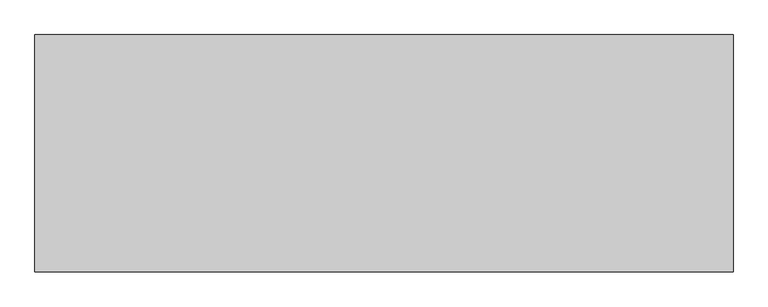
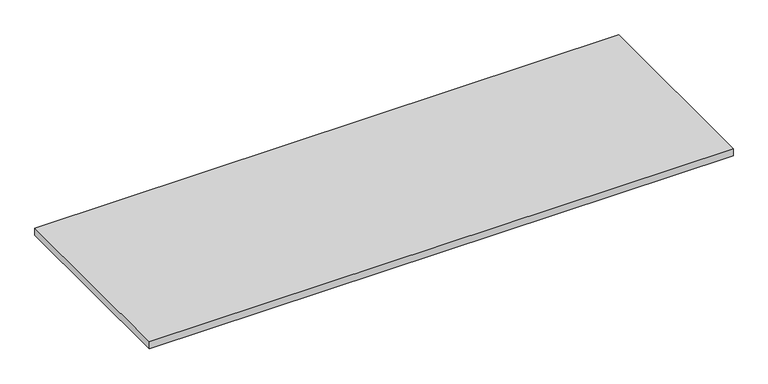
"""IFC4 building model written with IfcOpenShell, lengths in millimetres: furniture geometry, BK Library - Top Plate - HYOT : BK Library - Top Plate - HYOT."""

import ifcopenshell
import ifcopenshell.guid

model = None  # the IFC model being written
_history = None  # IfcOwnerHistory: only IFC2X3 demands one
_inside = {}  # id of a spatial element -> (the spatial element, [elements in it])
_under = {}  # id of a project, library or spatial element -> (it, [spatial elements below it])
_declared = {}  # id of a project -> (the project, [libraries it declares])
_typed = {}  # id of a type object -> (the type object, [elements of that type])
_made_of = {}  # id of a material, layer set ... -> (it, [elements and type objects made of it])


def new_model(schema):
    """Start an empty IFC model of exactly this schema.

    Asked for "IFC4X3", IfcOpenShell would pick the latest addendum, in which some entities
    have other attributes; the version numbers below select the first issue.
    IFC2X3 requires an IfcOwnerHistory on every rooted entity: one is made here for all.
    """
    global model, _history
    if schema == "IFC4X3":
        model = ifcopenshell.file(schema_version=(4, 3, 0, 0))
    else:
        model = ifcopenshell.file(schema=schema)
    _inside.clear()
    _under.clear()
    _declared.clear()
    _typed.clear()
    _made_of.clear()
    _history = None
    if model.schema == "IFC2X3":
        org = make("IfcOrganization", Name="unknown")
        user = make(
            "IfcPersonAndOrganization",
            ThePerson=make("IfcPerson", FamilyName="unknown"),
            TheOrganization=org,
        )
        app = make(
            "IfcApplication",
            ApplicationDeveloper=org,
            Version="unknown",
            ApplicationFullName="unknown",
            ApplicationIdentifier="unknown",
        )
        _history = make(
            "IfcOwnerHistory",
            OwningUser=user,
            OwningApplication=app,
            ChangeAction="ADDED",
            CreationDate=0,
        )
    return model


def make(cls, **values):
    """One entity of the class cls with the attributes given. An attribute that is None is left unset."""
    return model.create_entity(
        cls, **{name: value for name, value in values.items() if value is not None}
    )


def rooted(cls, **values):
    """An entity with a GlobalId (a new one), such as an element, a storey or a relation."""
    return make(cls, GlobalId=ifcopenshell.guid.new(), OwnerHistory=_history, **values)


def si_unit(unit_type, name, prefix=None):
    """IfcSIUnit, for example si_unit("LENGTHUNIT", "METRE", prefix="MILLI")."""
    return make("IfcSIUnit", UnitType=unit_type, Prefix=prefix, Name=name)


def assignment(units):
    """IfcUnitAssignment: the units of a project."""
    return None if units is None else make("IfcUnitAssignment", Units=units)


def point(xyz):
    """IfcCartesianPoint."""
    return None if xyz is None else make("IfcCartesianPoint", Coordinates=xyz)


def direction(xyz):
    """IfcDirection."""
    return None if xyz is None else make("IfcDirection", DirectionRatios=xyz)


def frame(location, z_axis=None, x_axis=None):
    """IfcAxis2Placement3D, a coordinate frame: its origin and axes. An axis left out is left unset."""
    return make(
        "IfcAxis2Placement3D",
        Location=point(location),
        Axis=direction(z_axis),
        RefDirection=direction(x_axis),
    )


def origin():
    """The frame at (0, 0, 0) with its axes left unset."""
    return frame((0.0, 0.0, 0.0))


def place(relative_to, where):
    """IfcLocalPlacement: puts the frame where relative to a parent placement (None: the world)."""
    return make(
        "IfcLocalPlacement", PlacementRelTo=relative_to, RelativePlacement=where
    )


def context(
    kind, dimensions, precision=None, world=None, true_north=None, identifier=None
):
    """IfcGeometricRepresentationContext, for example the 3D "Model" context."""
    return make(
        "IfcGeometricRepresentationContext",
        ContextIdentifier=identifier,
        ContextType=kind,
        CoordinateSpaceDimension=dimensions,
        Precision=precision,
        WorldCoordinateSystem=world,
        TrueNorth=true_north,
    )


def project(units=None, contexts=None):
    """IfcProject with its units and contexts."""
    return rooted(
        "IfcProject",
        Name="project",
        RepresentationContexts=contexts,
        UnitsInContext=assignment(units),
    )


def spatial(cls, under=None, at=None, **own):
    """A site, building, storey or space (cls), placed at a placement, below another one or the project."""
    s = rooted(cls, ObjectPlacement=at, **own)
    if under is not None:
        _under.setdefault(under.id(), (under, []))[1].append(s)
    return s


def polyline(points):
    """IfcPolyline through the points."""
    return make("IfcPolyline", Points=[point(p) for p in points])


def outline(outer, holes=None, kind="AREA"):
    """IfcArbitraryClosedProfileDef: a profile drawn as a closed curve; with holes, ...WithVoids."""
    if holes is None:
        return make("IfcArbitraryClosedProfileDef", ProfileType=kind, OuterCurve=outer)
    return make(
        "IfcArbitraryProfileDefWithVoids",
        ProfileType=kind,
        OuterCurve=outer,
        InnerCurves=holes,
    )


def extrude(swept, where, along, depth):
    """IfcExtrudedAreaSolid: the profile swept, set in the frame where, extruded along a direction by depth."""
    return make(
        "IfcExtrudedAreaSolid",
        SweptArea=swept,
        Position=where,
        ExtrudedDirection=direction(along),
        Depth=depth,
    )


def shape(context_of_items, identifier, shape_type, items):
    """IfcShapeRepresentation: the items that make up one representation, for example the "Body"."""
    return make(
        "IfcShapeRepresentation",
        ContextOfItems=context_of_items,
        RepresentationIdentifier=identifier,
        RepresentationType=shape_type,
        Items=items,
    )


def source(mapping_origin, context_of_items, identifier, shape_type, items):
    """IfcRepresentationMap: a shape defined once, which mapped items show again and again."""
    return make(
        "IfcRepresentationMap",
        MappingOrigin=mapping_origin,
        MappedRepresentation=shape(context_of_items, identifier, shape_type, items),
    )


def transform(
    local_origin,
    x_axis=None,
    y_axis=None,
    z_axis=None,
    scale=None,
    scale2=None,
    scale3=None,
    uniform=True,
):
    """IfcCartesianTransformationOperator3D, or its non-uniform kind. x_axis, y_axis, z_axis: its Axis1, 2, 3."""
    if uniform:
        return make(
            "IfcCartesianTransformationOperator3D",
            Axis1=direction(x_axis),
            Axis2=direction(y_axis),
            LocalOrigin=point(local_origin),
            Scale=scale,
            Axis3=direction(z_axis),
        )
    return make(
        "IfcCartesianTransformationOperator3DnonUniform",
        Axis1=direction(x_axis),
        Axis2=direction(y_axis),
        LocalOrigin=point(local_origin),
        Scale=scale,
        Axis3=direction(z_axis),
        Scale2=scale2,
        Scale3=scale3,
    )


def mapped(mapping_source, mapping_target):
    """IfcMappedItem: shows the shape of a source again, moved by a transform."""
    return make(
        "IfcMappedItem", MappingSource=mapping_source, MappingTarget=mapping_target
    )


def made_of(thing, what):
    """Note that an element or type object is made of a material, layer set ...; save() writes the relation."""
    if what is not None:
        _made_of.setdefault(what.id(), (what, []))[1].append(thing)
    return thing


def element(
    cls,
    number,
    at=None,
    inside=None,
    cuts=None,
    type_object=None,
    material=None,
    context=None,
    identifier="Body",
    shape_type=None,
    held_by="IfcProductDefinitionShape",
    body=None,
    shapes=None,
    **own,
):
    """One element of the class cls, such as IfcWall. Its Tag is "e" and its number.

    at: its placement. inside: the storey or other place that contains it. cuts: it is an
    opening in that element (IfcRelVoidsElement). A single representation is given by context,
    identifier, shape_type and body (its items); several are given by shapes. held_by: the class
    of the entity that holds the representations. save() writes the other relations.
    """
    e = rooted(cls, Tag="e%d" % number, ObjectPlacement=at, **own)
    if body is not None:
        shapes = [shape(context, identifier, shape_type, body)]
    if shapes is not None:
        e.Representation = make(held_by, Representations=shapes)
    if inside is not None:
        _inside.setdefault(inside.id(), (inside, []))[1].append(e)
    if cuts is not None:
        rooted(
            "IfcRelVoidsElement", RelatingBuildingElement=cuts, RelatedOpeningElement=e
        )
    if type_object is not None:
        _typed.setdefault(type_object.id(), (type_object, []))[1].append(e)
    return made_of(e, material)


def aggregate(whole, parts):
    """IfcRelAggregates: a whole, such as a stair, and the parts it consists of."""
    return rooted("IfcRelAggregates", RelatingObject=whole, RelatedObjects=parts)


def save(model, path):
    """Write the relations noted so far, then the file.

    IfcRelAggregates (storeys below a building ...), IfcRelContainedInSpatialStructure (elements
    in a storey), IfcRelDefinesByType, IfcRelAssociatesMaterial and IfcRelDeclares: one each for
    every whole, place, type object, material and project.
    """
    for whole, parts in _under.values():
        aggregate(whole, parts)
    for where, things in _inside.values():
        rooted(
            "IfcRelContainedInSpatialStructure",
            RelatedElements=things,
            RelatingStructure=where,
        )
    for kind, things in _typed.values():
        rooted("IfcRelDefinesByType", RelatedObjects=things, RelatingType=kind)
    for what, things in _made_of.values():
        rooted("IfcRelAssociatesMaterial", RelatedObjects=things, RelatingMaterial=what)
    for by, libraries in _declared.values():
        rooted("IfcRelDeclares", RelatingContext=by, RelatedDefinitions=libraries)
    model.write(path)


def furniture_c105972a(model_context):
    return source(origin(), model_context, "Body", "SweptSolid", [
        extrude(outline(polyline([(750.0, -255.0), (-750.0, -255.0), (-750.0, 255.0), (750.0, 255.0), (750.0, -255.0)])), frame((0.0, 0.0, -9.5), z_axis=(0.0, 0.0, 1.0), x_axis=(1.0, 0.0, 0.0)), (0.0, 0.0, 1.0), 19.0),
    ])


if __name__ == "__main__":
    model = new_model("IFC4")
    model_context = context("Model", 3, world=origin())
    ifc_project = project(units=[si_unit("LENGTHUNIT", "METRE", prefix="MILLI")], contexts=[model_context])
    site = spatial("IfcSite", under=ifc_project)
    building = spatial("IfcBuilding", under=site)
    placement = place(None, origin())
    furniture_shape = furniture_c105972a(model_context)
    element("IfcFurniture", 1, ObjectType="BK Library - Top Plate - HYOT : BK Library - Top Plate - HYOT", at=placement, inside=building, context=model_context, shape_type="MappedRepresentation", body=[
        mapped(furniture_shape, transform((0.0, 0.0, 0.0), x_axis=(1.0, 0.0, 0.0), y_axis=(0.0, 1.0, 0.0), z_axis=(0.0, 0.0, 1.0))),
    ])
    save(model, "model.ifc")
